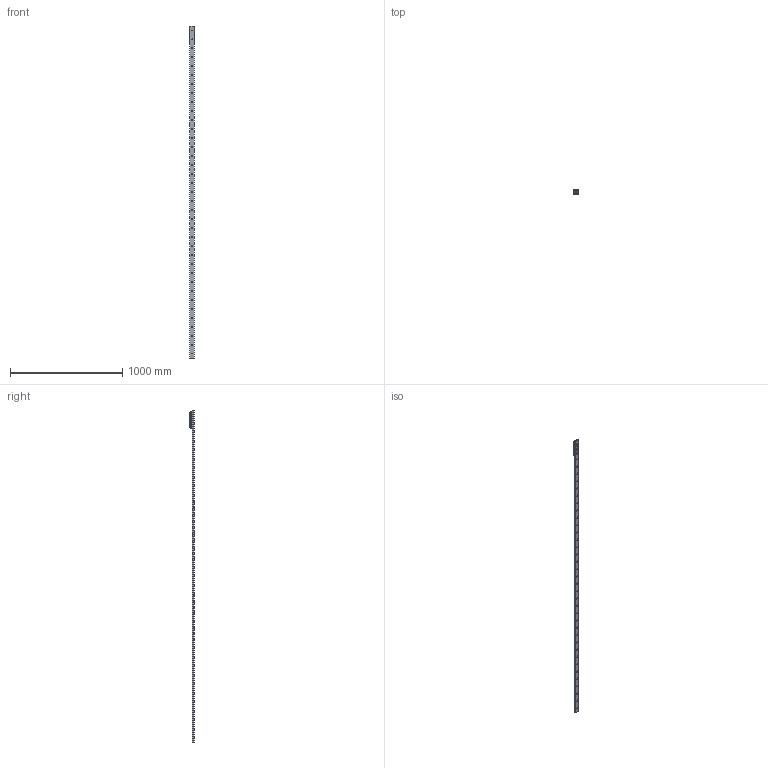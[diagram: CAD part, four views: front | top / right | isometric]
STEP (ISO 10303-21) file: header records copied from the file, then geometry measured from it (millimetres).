
FILE_DESCRIPTION( ( 'STEP AP214' ), '1' );
FILE_NAME( 'p:/temp/worker_14/temp/exporttempdir_3260_70_wyYCp/format_1/TGV-02960_1_RV43G-3.stp', '2021-05-14T19:21:38', ( 'License CC BY-ND 4.0' ), ( 'CADENAS' ), ' ', 'PARTsolutions', ' ' );
FILE_SCHEMA( ( 'AUTOMOTIVE_DESIGN { 1 0 10303 214 1 1 1 1 }' ) );
Length unit declared in the file: millimetre
Products named in the file (6): TGV-02960/1/RV43G-3; _TGV43-2960-(3-1); _RVG43-3-slider; _RGNV43R; _RGAV43R; _WR43G-01
Assembly tree (7 placements, depth 2):
  TGV-02960/1/RV43G-3
    _TGV43-2960-(3-1)
    _RVG43-3-slider
    _RGNV43R  x2
    _RGAV43R
    _WR43G-01  x2
Bounding box: 43 x 37 x 2960 mm (x, y, z)
Volume: 1204457.8 mm3; surface area: 485308.8 mm2
Topology: 7 solids, 7 shells, 1115 faces, 2909 edges, 1890 vertices
Faces by surface type: plane 663, cylinder 333, cone 76, bspline 34, torus 9
Full cylindrical faces by diameter (mm): 1.76 x4, 3 x8, 6 x4, 6.647 x4, 6.8 x3, 8 x3, 8.5 x37, 11 x11, 15 x6, 15.5 x1, 18.98 x2, 19 x1, 31.4 x6
Entity records: 27083 total; most frequent: CARTESIAN_POINT 4222, DIRECTION 3637, ORIENTED_EDGE 3286, EDGE_CURVE 1643, AXIS2_PLACEMENT_3D 1415, VERTEX_POINT 1162, EDGE_LOOP 1019, LINE 807
